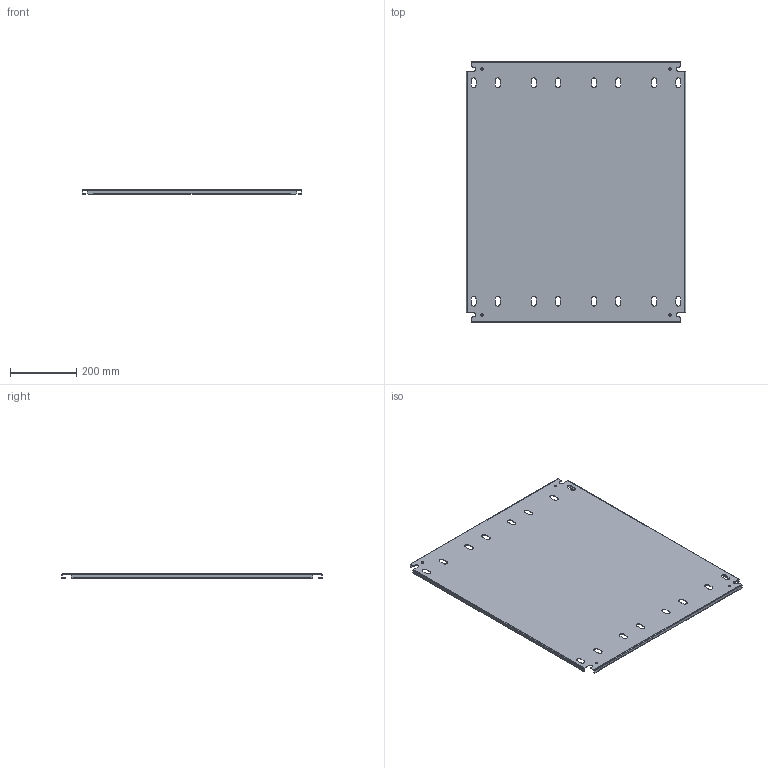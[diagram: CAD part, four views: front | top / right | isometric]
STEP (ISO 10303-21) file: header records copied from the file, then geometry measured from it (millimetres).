
FILE_DESCRIPTION(/* description */ ('1412BTSSCU 26.126" x 31" Left Inner Panel'),/* implementation_level */ '2;1');
FILE_NAME(/* name */ 'C:\Vault_Workspace\Inventor_Dwg\BoxCad\Result\1412BTSSCU101604DT\e-mail\3D\1412BTSSCU101604DTIP1.stp',/* time_stamp */ '2022-10-26T18:30:09-04:00',/* author */ ('BoxCad'),/* organization */ (''),/* preprocessor_version */ 'ST-DEVELOPER v18.1',/* originating_system */ 'Autodesk Inventor 2020',/* authorisation */ '');
FILE_SCHEMA (('AUTOMOTIVE_DESIGN { 1 0 10303 214 3 1 1 }'));
Length unit declared in the file: inch
Products named in the file (2): 1412BTSSCU101604DTIP1; 1412BTSSCU101604DTIP1-P
Assembly tree (1 placements, depth 2):
  1412BTSSCU101604DTIP1
    1412BTSSCU101604DTIP1-P
Bounding box: 663.6 x 787.4 x 13 mm (x, y, z)
Volume: 974056.9 mm3; surface area: 1135590.6 mm2
Topology: 1 solids, 1 shells, 174 faces, 516 edges, 344 vertices
Faces by surface type: plane 98, cylinder 76
Full cylindrical faces by diameter (mm): 7.366 x4
Entity records: 6001 total; most frequent: CARTESIAN_POINT 1037, ORIENTED_EDGE 1032, DIRECTION 1022, EDGE_CURVE 516, LINE 364, VECTOR 364, VERTEX_POINT 344, AXIS2_PLACEMENT_3D 329
